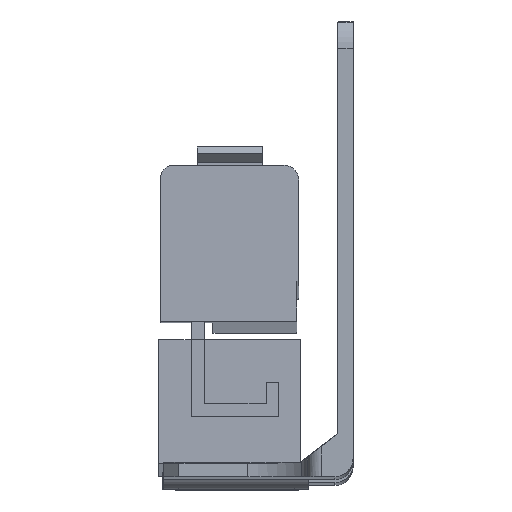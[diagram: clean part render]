
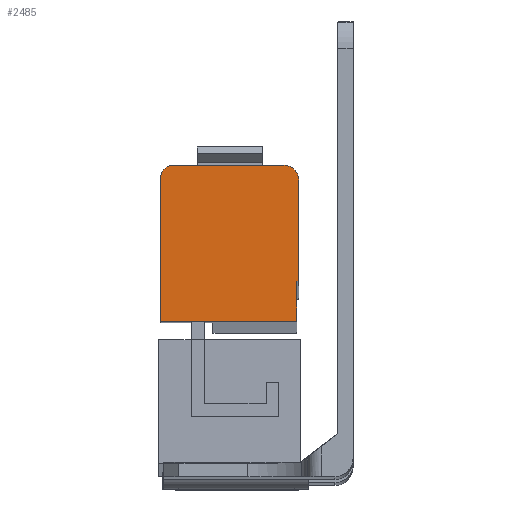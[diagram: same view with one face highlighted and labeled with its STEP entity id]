
A CAD part, front view. The second image highlights one B-rep face of the part: STEP entity #2485.
In plain terms, the highlighted planar face has unit normal (0, -1, 0.004).
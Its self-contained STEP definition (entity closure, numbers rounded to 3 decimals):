
#431 = FACE_OUTER_BOUND ( 'NONE', #3149, .T. ) ;
#494 = LINE ( 'NONE', #1401, #495 ) ;
#495 = VECTOR ( 'NONE', #1402, 1000. ) ;
#501 = CIRCLE ( 'NONE', #4593, 2.05 ) ;
#507 = LINE ( 'NONE', #1416, #508 ) ;
#508 = VECTOR ( 'NONE', #1417, 1000. ) ;
#514 = CIRCLE ( 'NONE', #4594, 1.75 ) ;
#520 = LINE ( 'NONE', #1431, #521 ) ;
#521 = VECTOR ( 'NONE', #1432, 1000. ) ;
#522 = LINE ( 'NONE', #1433, #523 ) ;
#523 = VECTOR ( 'NONE', #1434, 1000. ) ;
#528 = LINE ( 'NONE', #1439, #529 ) ;
#529 = VECTOR ( 'NONE', #1440, 1000. ) ;
#530 = LINE ( 'NONE', #1441, #531 ) ;
#531 = VECTOR ( 'NONE', #1442, 1000. ) ;
#1288 = PLANE ( 'NONE',  #4567 ) ;
#1289 = CARTESIAN_POINT ( 'NONE',  ( -24.75, -21.714, -6.528 ) ) ;
#1290 = DIRECTION ( 'NONE',  ( 0., -1., 0.004 ) ) ;
#1291 = DIRECTION ( 'NONE',  ( 0., -0.004, -1. ) ) ;
#1401 = CARTESIAN_POINT ( 'NONE',  ( -7.5, -21.716, -6.828 ) ) ;
#1402 = DIRECTION ( 'NONE',  ( 0., 0.004, 1. ) ) ;
#1407 = CARTESIAN_POINT ( 'NONE',  ( -9.55, -21.716, -6.828 ) ) ;
#1408 = DIRECTION ( 'NONE',  ( 0., -1., 0.004 ) ) ;
#1409 = DIRECTION ( 'NONE',  ( 0., 0.004, 1. ) ) ;
#1416 = CARTESIAN_POINT ( 'NONE',  ( -24.75, -21.708, -4.778 ) ) ;
#1417 = DIRECTION ( 'NONE',  ( -1., 0., 0. ) ) ;
#1422 = CARTESIAN_POINT ( 'NONE',  ( -24.75, -21.714, -6.528 ) ) ;
#1423 = DIRECTION ( 'NONE',  ( 0., -1., 0.004 ) ) ;
#1424 = DIRECTION ( 'NONE',  ( 0., -0.004, -1. ) ) ;
#1431 = CARTESIAN_POINT ( 'NONE',  ( -26.5, -21.714, -6.528 ) ) ;
#1432 = DIRECTION ( 'NONE',  ( 0., -0.004, -1. ) ) ;
#1433 = CARTESIAN_POINT ( 'NONE',  ( -26.5, -21.769, -20.778 ) ) ;
#1434 = DIRECTION ( 'NONE',  ( 1., 0., 0. ) ) ;
#1439 = CARTESIAN_POINT ( 'NONE',  ( -7.75, -21.79, -26.278 ) ) ;
#1440 = DIRECTION ( 'NONE',  ( 1., 0., 0. ) ) ;
#1441 = CARTESIAN_POINT ( 'NONE',  ( -7.75, -21.79, -26.278 ) ) ;
#1442 = DIRECTION ( 'NONE',  ( 0., 0.004, 1. ) ) ;
#1518 = CARTESIAN_POINT ( 'NONE',  ( -7.75, -21.79, -26.278 ) ) ;
#1520 = CARTESIAN_POINT ( 'NONE',  ( -7.75, -21.769, -20.778 ) ) ;
#1521 = CARTESIAN_POINT ( 'NONE',  ( -26.5, -21.79, -26.278 ) ) ;
#1524 = CARTESIAN_POINT ( 'NONE',  ( -26.5, -21.714, -6.528 ) ) ;
#1525 = CARTESIAN_POINT ( 'NONE',  ( -24.75, -21.708, -4.778 ) ) ;
#1528 = CARTESIAN_POINT ( 'NONE',  ( -9.55, -21.708, -4.778 ) ) ;
#1529 = CARTESIAN_POINT ( 'NONE',  ( -7.5, -21.769, -20.778 ) ) ;
#1530 = CARTESIAN_POINT ( 'NONE',  ( -7.5, -21.716, -6.828 ) ) ;
#2485 = ADVANCED_FACE ( 'NONE', ( #431 ), #1288, .T. ) ;
#3149 = EDGE_LOOP ( 'NONE', ( #3396, #3395, #3394, #3393, #3392, #3391, #3390, #3389 ) ) ;
#3389 = ORIENTED_EDGE ( 'NONE', *, *, #3477, .T. ) ;
#3390 = ORIENTED_EDGE ( 'NONE', *, *, #3481, .T. ) ;
#3391 = ORIENTED_EDGE ( 'NONE', *, *, #3480, .T. ) ;
#3392 = ORIENTED_EDGE ( 'NONE', *, *, #3476, .T. ) ;
#3393 = ORIENTED_EDGE ( 'NONE', *, *, #3472, .T. ) ;
#3394 = ORIENTED_EDGE ( 'NONE', *, *, #3469, .T. ) ;
#3395 = ORIENTED_EDGE ( 'NONE', *, *, #3465, .T. ) ;
#3396 = ORIENTED_EDGE ( 'NONE', *, *, #3462, .T. ) ;
#3462 = EDGE_CURVE ( 'NONE', #3848, #3849, #494, .T. ) ;
#3465 = EDGE_CURVE ( 'NONE', #3849, #3847, #501, .T. ) ;
#3469 = EDGE_CURVE ( 'NONE', #3847, #3844, #507, .T. ) ;
#3472 = EDGE_CURVE ( 'NONE', #3844, #3843, #514, .T. ) ;
#3476 = EDGE_CURVE ( 'NONE', #3843, #3840, #520, .T. ) ;
#3477 = EDGE_CURVE ( 'NONE', #3839, #3848, #522, .T. ) ;
#3480 = EDGE_CURVE ( 'NONE', #3840, #3837, #528, .T. ) ;
#3481 = EDGE_CURVE ( 'NONE', #3837, #3839, #530, .T. ) ;
#3837 = VERTEX_POINT ( 'NONE', #1518 ) ;
#3839 = VERTEX_POINT ( 'NONE', #1520 ) ;
#3840 = VERTEX_POINT ( 'NONE', #1521 ) ;
#3843 = VERTEX_POINT ( 'NONE', #1524 ) ;
#3844 = VERTEX_POINT ( 'NONE', #1525 ) ;
#3847 = VERTEX_POINT ( 'NONE', #1528 ) ;
#3848 = VERTEX_POINT ( 'NONE', #1529 ) ;
#3849 = VERTEX_POINT ( 'NONE', #1530 ) ;
#4567 = AXIS2_PLACEMENT_3D ( 'NONE', #1289, #1290, #1291 ) ;
#4593 = AXIS2_PLACEMENT_3D ( 'NONE', #1407, #1408, #1409 ) ;
#4594 = AXIS2_PLACEMENT_3D ( 'NONE', #1422, #1423, #1424 ) ;
